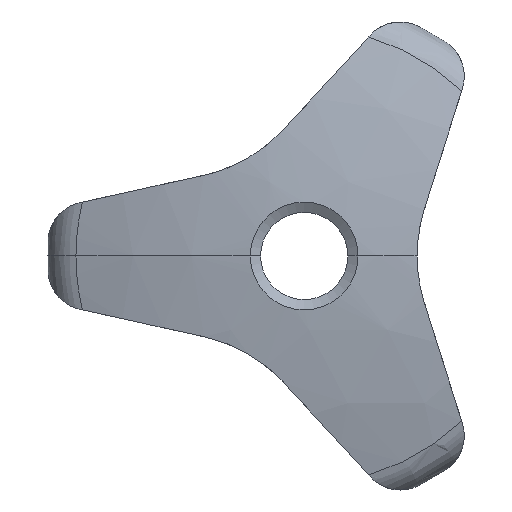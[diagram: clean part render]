
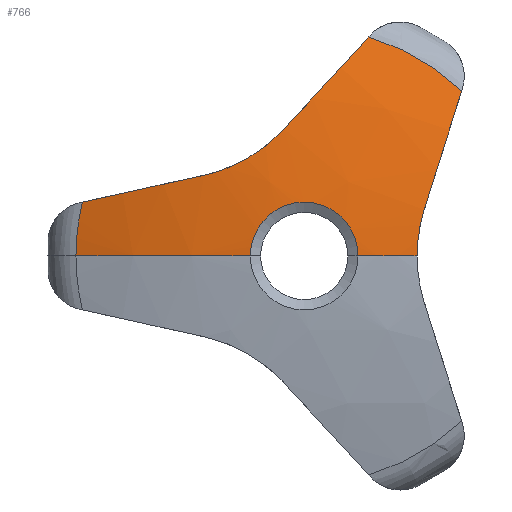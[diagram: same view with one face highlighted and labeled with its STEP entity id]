
A CAD part, left-side view. The second image highlights one B-rep face of the part: STEP entity #766.
In plain terms, the highlighted spherical face has radius 72 mm.
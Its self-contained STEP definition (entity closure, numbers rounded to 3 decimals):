
#5 = AXIS2_PLACEMENT_3D ( 'NONE', #384, #156, #516 ) ;
#6 = VERTEX_POINT ( 'NONE', #515 ) ;
#21 = SPHERICAL_SURFACE ( 'NONE', #1291, 72. ) ;
#34 = VERTEX_POINT ( 'NONE', #155 ) ;
#54 = VERTEX_POINT ( 'NONE', #882 ) ;
#57 = CARTESIAN_POINT ( 'NONE',  ( -28.901, -11.694, 4.511 ) ) ;
#117 = EDGE_LOOP ( 'NONE', ( #1224, #1358, #942, #440, #542, #1350, #475, #656, #854, #1317 ) ) ;
#118 = CARTESIAN_POINT ( 'NONE',  ( -29.808, -5.25, 0. ) ) ;
#133 = CARTESIAN_POINT ( 'NONE',  ( -29.149, 6.171, 9.156 ) ) ;
#155 = CARTESIAN_POINT ( 'NONE',  ( -29.808, 5.25, 0. ) ) ;
#156 = DIRECTION ( 'NONE',  ( 0., 0., 1. ) ) ;
#171 = CARTESIAN_POINT ( 'NONE',  ( -29.112, -11.117, 1.91 ) ) ;
#177 = CARTESIAN_POINT ( 'NONE',  ( -29.048, -11.291, 3.038 ) ) ;
#187 = EDGE_CURVE ( 'NONE', #6, #54, #506, .T. ) ;
#219 = CARTESIAN_POINT ( 'NONE',  ( -28.901, 9.753, 7.872 ) ) ;
#248 = CARTESIAN_POINT ( 'NONE',  ( -28.901, 1.941, 12.383 ) ) ;
#250 = DIRECTION ( 'NONE',  ( 0., 1., 0. ) ) ;
#252 = CARTESIAN_POINT ( 'NONE',  ( 42., 7.223, 6.619 ) ) ;
#253 = DIRECTION ( 'NONE',  ( 0., 0., 1. ) ) ;
#264 = VERTEX_POINT ( 'NONE', #726 ) ;
#267 = AXIS2_PLACEMENT_3D ( 'NONE', #988, #627, #859 ) ;
#268 = VERTEX_POINT ( 'NONE', #488 ) ;
#314 = B_SPLINE_CURVE_WITH_KNOTS ( 'NONE', 3,
 ( #1158, #1042, #654, #1256, #171, #177, #663, #57 ),
 .UNSPECIFIED., .F., .F.,
 ( 4, 2, 2, 4 ),
 ( 0.005, 0.006, 0.007, 0.009 ),
 .UNSPECIFIED. ) ;
#330 = CIRCLE ( 'NONE', #357, 72. ) ;
#338 = DIRECTION ( 'NONE',  ( 0., -0.737, -0.676 ) ) ;
#351 = VERTEX_POINT ( 'NONE', #248 ) ;
#357 = AXIS2_PLACEMENT_3D ( 'NONE', #1522, #1383, #657 ) ;
#377 = CARTESIAN_POINT ( 'NONE',  ( -29.048, 8.275, 8.26 ) ) ;
#384 = CARTESIAN_POINT ( 'NONE',  ( 42., 0., 0. ) ) ;
#399 = CARTESIAN_POINT ( 'NONE',  ( -29.112, 7.211, 8.674 ) ) ;
#406 = CARTESIAN_POINT ( 'NONE',  ( -28.985, 2.459, 11.817 ) ) ;
#440 = ORIENTED_EDGE ( 'NONE', *, *, #187, .T. ) ;
#450 = CARTESIAN_POINT ( 'NONE',  ( 42., -9.343, -2.946 ) ) ;
#455 = AXIS2_PLACEMENT_3D ( 'NONE', #1021, #799, #1389 ) ;
#456 = DIRECTION ( 'NONE',  ( 0., 0.954, 0.301 ) ) ;
#468 = VERTEX_POINT ( 'NONE', #761 ) ;
#475 = ORIENTED_EDGE ( 'NONE', *, *, #1145, .T. ) ;
#488 = CARTESIAN_POINT ( 'NONE',  ( -26.481, 21.608, 5.244 ) ) ;
#506 = CIRCLE ( 'NONE', #1418, 71.33 ) ;
#515 = CARTESIAN_POINT ( 'NONE',  ( -28.901, -11.694, 4.511 ) ) ;
#516 = DIRECTION ( 'NONE',  ( 0., -1., 0. ) ) ;
#533 = CARTESIAN_POINT ( 'NONE',  ( -29.155, -11., 0. ) ) ;
#542 = ORIENTED_EDGE ( 'NONE', *, *, #684, .F. ) ;
#555 = CIRCLE ( 'NONE', #1525, 71.33 ) ;
#580 = CIRCLE ( 'NONE', #794, 71.33 ) ;
#608 = DIRECTION ( 'NONE',  ( 0., -0.676, 0.737 ) ) ;
#611 = CIRCLE ( 'NONE', #455, 22.235 ) ;
#627 = DIRECTION ( 'NONE',  ( -1., 0., 0. ) ) ;
#630 = CARTESIAN_POINT ( 'NONE',  ( -29.155, 4.829, 9.914 ) ) ;
#654 = CARTESIAN_POINT ( 'NONE',  ( -29.149, -11.015, 0.77 ) ) ;
#656 = ORIENTED_EDGE ( 'NONE', *, *, #703, .T. ) ;
#657 = DIRECTION ( 'NONE',  ( -1., 0., 0. ) ) ;
#663 = CARTESIAN_POINT ( 'NONE',  ( -28.985, -11.464, 3.78 ) ) ;
#684 = EDGE_CURVE ( 'NONE', #468, #54, #716, .T. ) ;
#687 = VERTEX_POINT ( 'NONE', #118 ) ;
#703 = EDGE_CURVE ( 'NONE', #857, #268, #555, .T. ) ;
#716 = CIRCLE ( 'NONE', #914, 22.235 ) ;
#726 = CARTESIAN_POINT ( 'NONE',  ( -26.481, 22.235, 0. ) ) ;
#735 = DIRECTION ( 'NONE',  ( 0., 1., 0. ) ) ;
#737 = CARTESIAN_POINT ( 'NONE',  ( -29.048, 3.015, 11.297 ) ) ;
#750 = CARTESIAN_POINT ( 'NONE',  ( 42., 0., 0. ) ) ;
#758 = CARTESIAN_POINT ( 'NONE',  ( -29.133, 4.2, 10.346 ) ) ;
#761 = CARTESIAN_POINT ( 'NONE',  ( -26.481, -6.262, 21.335 ) ) ;
#766 = ADVANCED_FACE ( 'NONE', ( #1114 ), #21, .T. ) ;
#768 = CIRCLE ( 'NONE', #5, 72. ) ;
#794 = AXIS2_PLACEMENT_3D ( 'NONE', #252, #338, #608 ) ;
#799 = DIRECTION ( 'NONE',  ( 1., 0., 0. ) ) ;
#854 = ORIENTED_EDGE ( 'NONE', *, *, #1216, .F. ) ;
#857 = VERTEX_POINT ( 'NONE', #219 ) ;
#859 = DIRECTION ( 'NONE',  ( 0., 1., 0. ) ) ;
#870 = CARTESIAN_POINT ( 'NONE',  ( -28.901, 1.941, 12.383 ) ) ;
#882 = CARTESIAN_POINT ( 'NONE',  ( -26.481, -15.346, 16.091 ) ) ;
#914 = AXIS2_PLACEMENT_3D ( 'NONE', #1442, #1205, #250 ) ;
#923 = VERTEX_POINT ( 'NONE', #533 ) ;
#935 = DIRECTION ( 'NONE',  ( 0., 0.301, -0.954 ) ) ;
#942 = ORIENTED_EDGE ( 'NONE', *, *, #1259, .T. ) ;
#954 = EDGE_CURVE ( 'NONE', #34, #264, #330, .T. ) ;
#988 = CARTESIAN_POINT ( 'NONE',  ( -29.808, 0., 0. ) ) ;
#1021 = CARTESIAN_POINT ( 'NONE',  ( -26.481, 0., 0. ) ) ;
#1042 = CARTESIAN_POINT ( 'NONE',  ( -29.155, -11., 0.385 ) ) ;
#1077 = EDGE_CURVE ( 'NONE', #687, #923, #768, .T. ) ;
#1114 = FACE_OUTER_BOUND ( 'NONE', #117, .T. ) ;
#1116 = CARTESIAN_POINT ( 'NONE',  ( -28.985, 9.004, 8.038 ) ) ;
#1145 = EDGE_CURVE ( 'NONE', #351, #857, #1426, .T. ) ;
#1158 = CARTESIAN_POINT ( 'NONE',  ( -29.155, -11., 0. ) ) ;
#1195 = CIRCLE ( 'NONE', #267, 5.25 ) ;
#1205 = DIRECTION ( 'NONE',  ( 1., 0., 0. ) ) ;
#1215 = DIRECTION ( 'NONE',  ( 0., -0.216, -0.976 ) ) ;
#1216 = EDGE_CURVE ( 'NONE', #264, #268, #611, .T. ) ;
#1224 = ORIENTED_EDGE ( 'NONE', *, *, #1499, .F. ) ;
#1235 = DIRECTION ( 'NONE',  ( 0., -0.976, 0.216 ) ) ;
#1242 = CARTESIAN_POINT ( 'NONE',  ( -29.155, 5.829, 9.336 ) ) ;
#1256 = CARTESIAN_POINT ( 'NONE',  ( -29.128, -11.074, 1.532 ) ) ;
#1259 = EDGE_CURVE ( 'NONE', #923, #6, #314, .T. ) ;
#1291 = AXIS2_PLACEMENT_3D ( 'NONE', #750, #253, #735 ) ;
#1317 = ORIENTED_EDGE ( 'NONE', *, *, #954, .F. ) ;
#1350 = ORIENTED_EDGE ( 'NONE', *, *, #1410, .T. ) ;
#1351 = CARTESIAN_POINT ( 'NONE',  ( -29.128, 6.861, 8.825 ) ) ;
#1358 = ORIENTED_EDGE ( 'NONE', *, *, #1077, .T. ) ;
#1364 = CARTESIAN_POINT ( 'NONE',  ( -28.901, 9.753, 7.872 ) ) ;
#1383 = DIRECTION ( 'NONE',  ( 0., 0., -1. ) ) ;
#1389 = DIRECTION ( 'NONE',  ( 0., 1., 0. ) ) ;
#1410 = EDGE_CURVE ( 'NONE', #468, #351, #580, .T. ) ;
#1418 = AXIS2_PLACEMENT_3D ( 'NONE', #450, #456, #935 ) ;
#1426 = B_SPLINE_CURVE_WITH_KNOTS ( 'NONE', 3,
 ( #870, #406, #737, #758, #630, #1242, #133, #1351, #399, #377, #1116, #1364 ),
 .UNSPECIFIED., .F., .F.,
 ( 4, 2, 2, 2, 2, 4 ),
 ( 0., 0.002, 0.005, 0.006, 0.007, 0.009 ),
 .UNSPECIFIED. ) ;
#1442 = CARTESIAN_POINT ( 'NONE',  ( -26.481, 0., 0. ) ) ;
#1446 = CARTESIAN_POINT ( 'NONE',  ( 42., 2.12, 9.564 ) ) ;
#1499 = EDGE_CURVE ( 'NONE', #687, #34, #1195, .T. ) ;
#1522 = CARTESIAN_POINT ( 'NONE',  ( 42., 0., 0. ) ) ;
#1525 = AXIS2_PLACEMENT_3D ( 'NONE', #1446, #1215, #1235 ) ;
